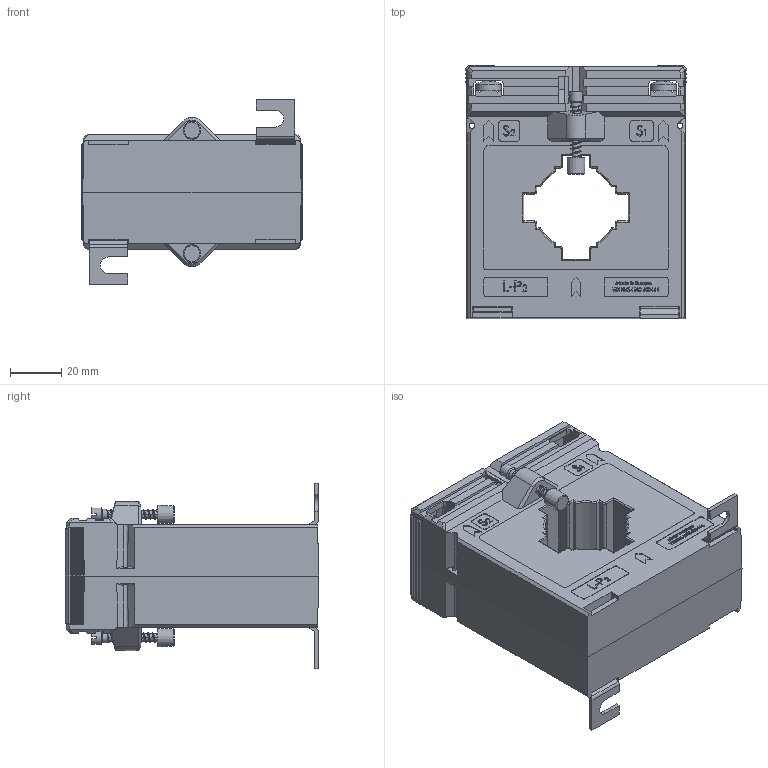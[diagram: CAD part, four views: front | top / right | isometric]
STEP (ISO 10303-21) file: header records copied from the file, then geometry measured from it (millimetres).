
FILE_DESCRIPTION(/* description */ (''),/* implementation_level */ '2;1');
FILE_NAME(/* name */ 'ASK541.4.stp',/* time_stamp */ '2024-03-05T09:35:57+01:00',/* author */ ('JDI'),/* organization */ (''),/* preprocessor_version */ 'ST-DEVELOPER v19.2',/* originating_system */ 'Autodesk Inventor 2023',/* authorisation */ '');
FILE_SCHEMA (('AUTOMOTIVE_DESIGN { 1 0 10303 214 3 1 1 }'));
Products named in the file (1): ASK541.4
Bounding box: 86 x 98.5 x 72 mm (x, y, z)
Volume: 281200.2 mm3; surface area: 50292.4 mm2
Topology: 1 solids, 1 shells, 1852 faces, 4918 edges, 3160 vertices
Faces by surface type: plane 1250, bspline 334, cylinder 203, cone 45, torus 12, sphere 8
Full cylindrical faces by diameter (mm): 2.95 x2, 3 x26, 3.8 x4, 4 x11, 4.1 x2, 5 x2, 10 x4
Entity records: 80873 total; most frequent: CARTESIAN_POINT 35376, ORIENTED_EDGE 9836, DIRECTION 7624, EDGE_CURVE 4918, LINE 3600, VECTOR 3600, VERTEX_POINT 3160, AXIS2_PLACEMENT_3D 2012
